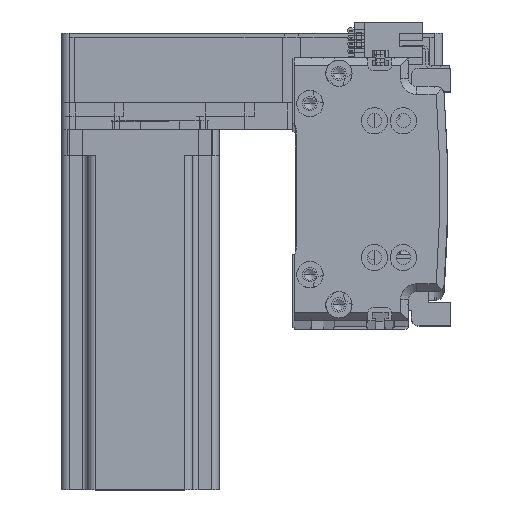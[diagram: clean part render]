
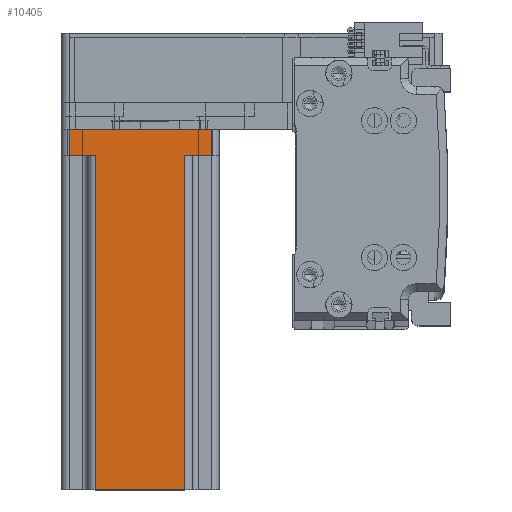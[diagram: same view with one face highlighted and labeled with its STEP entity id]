
A CAD part, top view. The second image highlights one B-rep face of the part: STEP entity #10405.
In plain terms, the highlighted planar face has unit normal (0, 0, 1) as drawn and (0, -1, 0) by its records, which use the part's own axes.
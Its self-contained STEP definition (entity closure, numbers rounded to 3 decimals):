
#1098 = AXIS2_PLACEMENT_3D ( 'NONE', #33258, #3465, #38216 ) ;
#1830 = VECTOR ( 'NONE', #17722, 1000. ) ;
#2264 = VERTEX_POINT ( 'NONE', #62530 ) ;
#2708 = CARTESIAN_POINT ( 'NONE',  ( -17., -30., 137. ) ) ;
#2783 = DIRECTION ( 'NONE',  ( 0., 0., -1. ) ) ;
#3465 = DIRECTION ( 'NONE',  ( 0., 1., 0. ) ) ;
#3700 = CARTESIAN_POINT ( 'NONE',  ( -17., -30., 137. ) ) ;
#4080 = VECTOR ( 'NONE', #33620, 1000. ) ;
#5469 = VERTEX_POINT ( 'NONE', #61023 ) ;
#6440 = LINE ( 'NONE', #30731, #44487 ) ;
#7233 = LINE ( 'NONE', #28636, #4080 ) ;
#7823 = CARTESIAN_POINT ( 'NONE',  ( -27., -30., 137. ) ) ;
#8385 = VERTEX_POINT ( 'NONE', #55551 ) ;
#8421 = VECTOR ( 'NONE', #47275, 1000. ) ;
#9129 = ORIENTED_EDGE ( 'NONE', *, *, #41665, .T. ) ;
#10405 = ADVANCED_FACE ( 'NONE', ( #52753 ), #43012, .F. ) ;
#12735 = CARTESIAN_POINT ( 'NONE',  ( 17., -30., 137. ) ) ;
#13598 = EDGE_CURVE ( 'NONE', #38552, #8385, #55200, .T. ) ;
#14626 = LINE ( 'NONE', #17502, #51057 ) ;
#14987 = EDGE_CURVE ( 'NONE', #53544, #45139, #14626, .T. ) ;
#15618 = VECTOR ( 'NONE', #2783, 1000. ) ;
#16702 = LINE ( 'NONE', #12735, #1830 ) ;
#17502 = CARTESIAN_POINT ( 'NONE',  ( 30., -30., 137. ) ) ;
#17722 = DIRECTION ( 'NONE',  ( 0., 0., 1. ) ) ;
#19109 = EDGE_LOOP ( 'NONE', ( #52831, #23857, #28092, #61452, #54645, #9129, #33404, #42734 ) ) ;
#19728 = VERTEX_POINT ( 'NONE', #52882 ) ;
#21605 = LINE ( 'NONE', #33496, #46368 ) ;
#22244 = EDGE_CURVE ( 'NONE', #38552, #19728, #21605, .T. ) ;
#23211 = LINE ( 'NONE', #61584, #8421 ) ;
#23857 = ORIENTED_EDGE ( 'NONE', *, *, #54564, .T. ) ;
#24640 = LINE ( 'NONE', #2708, #37806 ) ;
#28092 = ORIENTED_EDGE ( 'NONE', *, *, #22244, .F. ) ;
#28131 = EDGE_CURVE ( 'NONE', #8385, #62292, #23211, .T. ) ;
#28636 = CARTESIAN_POINT ( 'NONE',  ( 27., -30., 137. ) ) ;
#30731 = CARTESIAN_POINT ( 'NONE',  ( 20., -30., 10. ) ) ;
#33258 = CARTESIAN_POINT ( 'NONE',  ( 30., -30., 137. ) ) ;
#33404 = ORIENTED_EDGE ( 'NONE', *, *, #62861, .T. ) ;
#33496 = CARTESIAN_POINT ( 'NONE',  ( -20., -30., 10. ) ) ;
#33620 = DIRECTION ( 'NONE',  ( 0., 0., 1. ) ) ;
#36138 = EDGE_CURVE ( 'NONE', #2264, #45139, #16702, .T. ) ;
#37461 = DIRECTION ( 'NONE',  ( 0., 0., -1. ) ) ;
#37806 = VECTOR ( 'NONE', #37461, 1000. ) ;
#38216 = DIRECTION ( 'NONE',  ( -1., 0., 0. ) ) ;
#38552 = VERTEX_POINT ( 'NONE', #50151 ) ;
#41665 = EDGE_CURVE ( 'NONE', #62292, #5469, #7233, .T. ) ;
#42734 = ORIENTED_EDGE ( 'NONE', *, *, #36138, .T. ) ;
#43012 = PLANE ( 'NONE',  #1098 ) ;
#44487 = VECTOR ( 'NONE', #50432, 1000. ) ;
#45139 = VERTEX_POINT ( 'NONE', #50068 ) ;
#46368 = VECTOR ( 'NONE', #58236, 1000. ) ;
#47180 = DIRECTION ( 'NONE',  ( 1., 0., 0. ) ) ;
#47275 = DIRECTION ( 'NONE',  ( 1., 0., 0. ) ) ;
#50068 = CARTESIAN_POINT ( 'NONE',  ( 17., -30., 137. ) ) ;
#50151 = CARTESIAN_POINT ( 'NONE',  ( -27., -30., 10. ) ) ;
#50234 = CARTESIAN_POINT ( 'NONE',  ( 27., -30., 0. ) ) ;
#50432 = DIRECTION ( 'NONE',  ( -1., 0., 0. ) ) ;
#51057 = VECTOR ( 'NONE', #47180, 1000. ) ;
#52753 = FACE_OUTER_BOUND ( 'NONE', #19109, .T. ) ;
#52831 = ORIENTED_EDGE ( 'NONE', *, *, #14987, .F. ) ;
#52882 = CARTESIAN_POINT ( 'NONE',  ( -17., -30., 10. ) ) ;
#53544 = VERTEX_POINT ( 'NONE', #3700 ) ;
#54564 = EDGE_CURVE ( 'NONE', #53544, #19728, #24640, .T. ) ;
#54645 = ORIENTED_EDGE ( 'NONE', *, *, #28131, .T. ) ;
#55200 = LINE ( 'NONE', #7823, #15618 ) ;
#55551 = CARTESIAN_POINT ( 'NONE',  ( -27., -30., 0. ) ) ;
#58236 = DIRECTION ( 'NONE',  ( 1., 0., 0. ) ) ;
#61023 = CARTESIAN_POINT ( 'NONE',  ( 27., -30., 10. ) ) ;
#61452 = ORIENTED_EDGE ( 'NONE', *, *, #13598, .T. ) ;
#61584 = CARTESIAN_POINT ( 'NONE',  ( 30., -30., 0. ) ) ;
#62292 = VERTEX_POINT ( 'NONE', #50234 ) ;
#62530 = CARTESIAN_POINT ( 'NONE',  ( 17., -30., 10. ) ) ;
#62861 = EDGE_CURVE ( 'NONE', #5469, #2264, #6440, .T. ) ;
